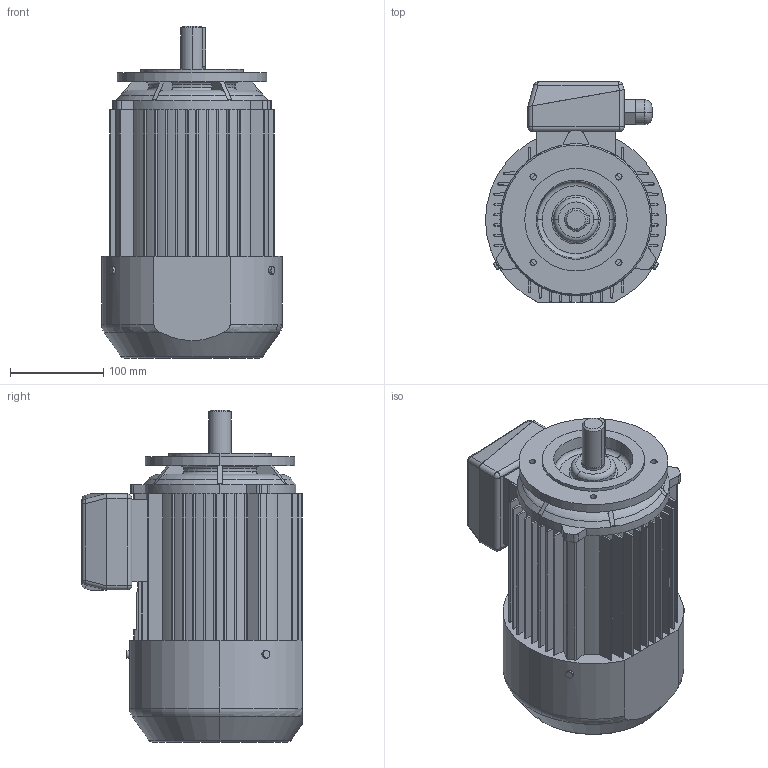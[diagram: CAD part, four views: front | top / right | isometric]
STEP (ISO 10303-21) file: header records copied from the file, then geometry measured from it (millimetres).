
FILE_DESCRIPTION (( 'STEP AP203' ), '1' );
FILE_NAME ('3SIEK90L4,6-B14-C1.STEP', '2016-02-08T11:54:44', ( 'Indukta' ), ( 'Celma Indukta S.A.' ), 'SwSTEP 2.0', 'SolidWorks 2003064', '' );
FILE_SCHEMA (( 'CONFIG_CONTROL_DESIGN' ));
Length unit declared in the file: millimetre
Products named in the file (1): 3SIEK90L4,6-B14-C1
Bounding box: 194 x 236 x 356 mm (x, y, z)
Volume: 7717136.3 mm3; surface area: 396641.3 mm2
Topology: 1 solids, 1 shells, 603 faces, 1618 edges, 1031 vertices
Faces by surface type: plane 311, cylinder 155, bspline 78, torus 37, cone 14, sphere 8
Entity records: 25478 total; most frequent: CARTESIAN_POINT 10681, ORIENTED_EDGE 3220, DIRECTION 2878, EDGE_CURVE 1610, VERTEX_POINT 1031, AXIS2_PLACEMENT_3D 990, LINE 898, VECTOR 898
